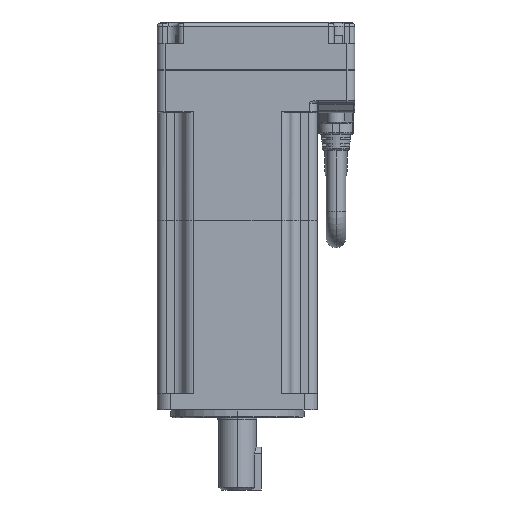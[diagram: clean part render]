
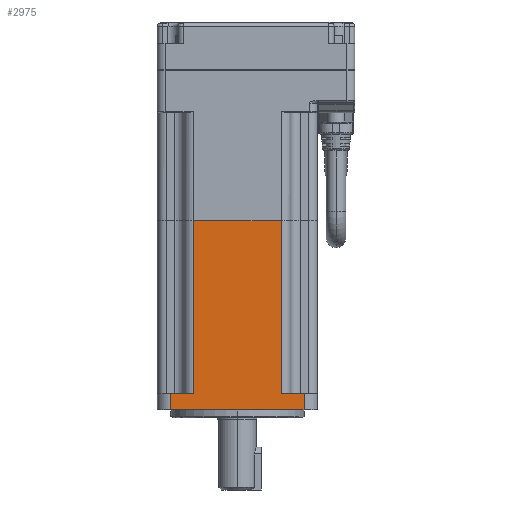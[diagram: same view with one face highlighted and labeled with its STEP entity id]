
A CAD part, left-side view. The second image highlights one B-rep face of the part: STEP entity #2975.
In plain terms, the highlighted planar face has unit normal (-1, 0, 0).
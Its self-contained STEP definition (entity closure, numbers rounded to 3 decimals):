
#537=DIRECTION('',(0.,-1.,0.));
#538=VECTOR('',#537,8.5);
#539=CARTESIAN_POINT('',(-30.,123.745,53.228));
#540=LINE('',#539,#538);
#586=DIRECTION('',(0.,0.,1.));
#587=VECTOR('',#586,65.);
#588=CARTESIAN_POINT('',(-30.,115.245,53.228));
#589=LINE('',#588,#587);
#590=DIRECTION('',(0.,-1.,0.));
#591=VECTOR('',#590,50.);
#592=CARTESIAN_POINT('',(-30.,123.745,47.228));
#593=LINE('',#592,#591);
#594=DIRECTION('',(0.,-1.,0.));
#595=VECTOR('',#594,33.);
#596=CARTESIAN_POINT('',(-30.,115.245,118.228));
#597=LINE('',#596,#595);
#598=DIRECTION('',(0.,0.,1.));
#599=VECTOR('',#598,6.);
#600=CARTESIAN_POINT('',(-30.,123.745,47.228));
#601=LINE('',#600,#599);
#606=DIRECTION('',(0.,0.,-1.));
#607=VECTOR('',#606,65.);
#608=CARTESIAN_POINT('',(-30.,82.245,118.228));
#609=LINE('',#608,#607);
#619=DIRECTION('',(0.,-1.,0.));
#620=VECTOR('',#619,8.5);
#621=CARTESIAN_POINT('',(-30.,82.245,53.228));
#622=LINE('',#621,#620);
#703=DIRECTION('',(0.,0.,-1.));
#704=VECTOR('',#703,6.);
#705=CARTESIAN_POINT('',(-30.,73.745,53.228));
#706=LINE('',#705,#704);
#2151=CARTESIAN_POINT('',(-30.,73.745,47.228));
#2153=VERTEX_POINT('',#2151);
#2252=CARTESIAN_POINT('',(-30.,115.245,53.228));
#2253=CARTESIAN_POINT('',(-30.,115.245,118.228));
#2254=VERTEX_POINT('',#2252);
#2255=VERTEX_POINT('',#2253);
#2428=CARTESIAN_POINT('',(-30.,73.745,53.228));
#2430=VERTEX_POINT('',#2428);
#2456=CARTESIAN_POINT('',(-30.,82.245,53.228));
#2457=VERTEX_POINT('',#2456);
#2480=CARTESIAN_POINT('',(-30.,123.745,53.228));
#2481=VERTEX_POINT('',#2480);
#2550=CARTESIAN_POINT('',(-30.,123.745,47.228));
#2551=VERTEX_POINT('',#2550);
#2560=CARTESIAN_POINT('',(-30.,82.245,118.228));
#2561=VERTEX_POINT('',#2560);
#2955=CARTESIAN_POINT('',(-30.,128.745,118.228));
#2956=DIRECTION('',(1.,0.,0.));
#2957=DIRECTION('',(0.,0.,-1.));
#2958=AXIS2_PLACEMENT_3D('',#2955,#2956,#2957);
#2959=PLANE('',#2958);
#2960=ORIENTED_EDGE('',*,*,#2783,.F.);
#2962=ORIENTED_EDGE('',*,*,#2961,.T.);
#2963=ORIENTED_EDGE('',*,*,#2886,.T.);
#2964=ORIENTED_EDGE('',*,*,#2950,.T.);
#2966=ORIENTED_EDGE('',*,*,#2965,.T.);
#2968=ORIENTED_EDGE('',*,*,#2967,.T.);
#2970=ORIENTED_EDGE('',*,*,#2969,.T.);
#2972=ORIENTED_EDGE('',*,*,#2971,.T.);
#2973=EDGE_LOOP('',(#2960,#2962,#2963,#2964,#2966,#2968,#2970,#2972));
#2974=FACE_OUTER_BOUND('',#2973,.F.);
#2975=ADVANCED_FACE('',(#2974),#2959,.F.);
#2783=EDGE_CURVE('',#2551,#2153,#593,.T.);
#2886=EDGE_CURVE('',#2481,#2254,#540,.T.);
#2950=EDGE_CURVE('',#2254,#2255,#589,.T.);
#2961=EDGE_CURVE('',#2551,#2481,#601,.T.);
#2965=EDGE_CURVE('',#2255,#2561,#597,.T.);
#2967=EDGE_CURVE('',#2561,#2457,#609,.T.);
#2969=EDGE_CURVE('',#2457,#2430,#622,.T.);
#2971=EDGE_CURVE('',#2430,#2153,#706,.T.);
